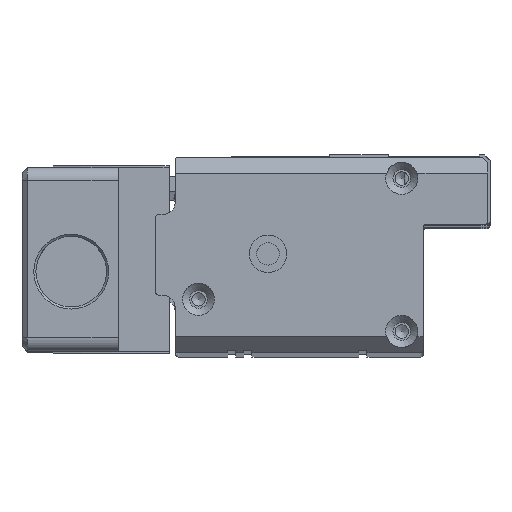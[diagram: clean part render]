
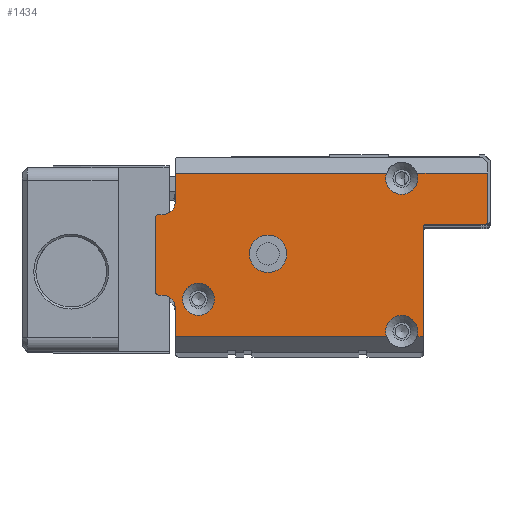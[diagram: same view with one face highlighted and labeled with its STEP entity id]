
A CAD part, top view. The second image highlights one B-rep face of the part: STEP entity #1434.
In plain terms, the highlighted planar face has unit normal (0, 0, 1).
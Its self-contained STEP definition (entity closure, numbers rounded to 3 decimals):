
#561=FACE_BOUND('',#2789,.T.);
#562=FACE_BOUND('',#2790,.T.);
#563=FACE_BOUND('',#2791,.T.);
#886=CIRCLE('',#10532,3.);
#887=CIRCLE('',#10533,3.);
#888=CIRCLE('',#10534,0.5);
#889=CIRCLE('',#10535,0.5);
#890=CIRCLE('',#10536,3.);
#891=CIRCLE('',#10537,2.5);
#892=CIRCLE('',#10538,0.5);
#893=CIRCLE('',#10539,0.5);
#894=CIRCLE('',#10540,2.5);
#895=CIRCLE('',#10541,3.5);
#1434=ADVANCED_FACE('',(#561,#562,#563),#1770,.T.);
#1770=PLANE('',#10542);
#2789=EDGE_LOOP('',(#7181));
#2790=EDGE_LOOP('',(#7182,#7183,#7184,#7185,#7186,#7187,#7188,#7189,#7190,
#7191,#7192,#7193,#7194,#7195,#7196,#7197,#7198,#7199,#7200,#7201));
#2791=EDGE_LOOP('',(#7202));
#3693=LINE('',#16460,#4619);
#3694=LINE('',#16462,#4620);
#3695=LINE('',#16466,#4621);
#3696=LINE('',#16470,#4622);
#3697=LINE('',#16472,#4623);
#3698=LINE('',#16476,#4624);
#3699=LINE('',#16478,#4625);
#3700=LINE('',#16482,#4626);
#3701=LINE('',#16486,#4627);
#3702=LINE('',#16490,#4628);
#3703=LINE('',#16494,#4629);
#3704=LINE('',#16496,#4630);
#4619=VECTOR('',#13069,1.);
#4620=VECTOR('',#13070,1.);
#4621=VECTOR('',#13073,1.);
#4622=VECTOR('',#13076,1.);
#4623=VECTOR('',#13077,1.);
#4624=VECTOR('',#13080,1.);
#4625=VECTOR('',#13081,1.);
#4626=VECTOR('',#13084,1.);
#4627=VECTOR('',#13087,1.);
#4628=VECTOR('',#13090,1.);
#4629=VECTOR('',#13093,1.);
#4630=VECTOR('',#13094,1.);
#7181=ORIENTED_EDGE('',*,*,#9598,.T.);
#7182=ORIENTED_EDGE('',*,*,#9599,.T.);
#7183=ORIENTED_EDGE('',*,*,#9600,.T.);
#7184=ORIENTED_EDGE('',*,*,#9601,.T.);
#7185=ORIENTED_EDGE('',*,*,#9602,.T.);
#7186=ORIENTED_EDGE('',*,*,#9603,.T.);
#7187=ORIENTED_EDGE('',*,*,#9604,.T.);
#7188=ORIENTED_EDGE('',*,*,#9605,.T.);
#7189=ORIENTED_EDGE('',*,*,#9606,.T.);
#7190=ORIENTED_EDGE('',*,*,#9607,.T.);
#7191=ORIENTED_EDGE('',*,*,#9608,.T.);
#7192=ORIENTED_EDGE('',*,*,#9609,.T.);
#7193=ORIENTED_EDGE('',*,*,#9610,.T.);
#7194=ORIENTED_EDGE('',*,*,#9611,.T.);
#7195=ORIENTED_EDGE('',*,*,#9612,.T.);
#7196=ORIENTED_EDGE('',*,*,#9613,.T.);
#7197=ORIENTED_EDGE('',*,*,#9614,.T.);
#7198=ORIENTED_EDGE('',*,*,#9615,.T.);
#7199=ORIENTED_EDGE('',*,*,#9616,.T.);
#7200=ORIENTED_EDGE('',*,*,#9617,.T.);
#7201=ORIENTED_EDGE('',*,*,#9618,.T.);
#7202=ORIENTED_EDGE('',*,*,#9619,.T.);
#8274=VERTEX_POINT('',#16456);
#8275=VERTEX_POINT('',#16458);
#8276=VERTEX_POINT('',#16459);
#8277=VERTEX_POINT('',#16461);
#8278=VERTEX_POINT('',#16463);
#8279=VERTEX_POINT('',#16465);
#8280=VERTEX_POINT('',#16467);
#8281=VERTEX_POINT('',#16469);
#8282=VERTEX_POINT('',#16471);
#8283=VERTEX_POINT('',#16473);
#8284=VERTEX_POINT('',#16475);
#8285=VERTEX_POINT('',#16477);
#8286=VERTEX_POINT('',#16479);
#8287=VERTEX_POINT('',#16481);
#8288=VERTEX_POINT('',#16483);
#8289=VERTEX_POINT('',#16485);
#8290=VERTEX_POINT('',#16487);
#8291=VERTEX_POINT('',#16489);
#8292=VERTEX_POINT('',#16491);
#8293=VERTEX_POINT('',#16493);
#8294=VERTEX_POINT('',#16495);
#8295=VERTEX_POINT('',#16498);
#9598=EDGE_CURVE('',#8274,#8274,#886,.T.);
#9599=EDGE_CURVE('',#8275,#8276,#887,.T.);
#9600=EDGE_CURVE('',#8276,#8277,#3693,.T.);
#9601=EDGE_CURVE('',#8277,#8278,#3694,.T.);
#9602=EDGE_CURVE('',#8278,#8279,#888,.T.);
#9603=EDGE_CURVE('',#8279,#8280,#3695,.T.);
#9604=EDGE_CURVE('',#8280,#8281,#889,.T.);
#9605=EDGE_CURVE('',#8281,#8282,#3696,.T.);
#9606=EDGE_CURVE('',#8282,#8283,#3697,.T.);
#9607=EDGE_CURVE('',#8283,#8284,#890,.T.);
#9608=EDGE_CURVE('',#8284,#8285,#3698,.T.);
#9609=EDGE_CURVE('',#8285,#8286,#3699,.T.);
#9610=EDGE_CURVE('',#8286,#8287,#891,.T.);
#9611=EDGE_CURVE('',#8287,#8288,#3700,.T.);
#9612=EDGE_CURVE('',#8288,#8289,#892,.T.);
#9613=EDGE_CURVE('',#8289,#8290,#3701,.T.);
#9614=EDGE_CURVE('',#8290,#8291,#893,.T.);
#9615=EDGE_CURVE('',#8291,#8292,#3702,.T.);
#9616=EDGE_CURVE('',#8292,#8293,#894,.T.);
#9617=EDGE_CURVE('',#8293,#8294,#3703,.T.);
#9618=EDGE_CURVE('',#8294,#8275,#3704,.T.);
#9619=EDGE_CURVE('',#8295,#8295,#895,.T.);
#10532=AXIS2_PLACEMENT_3D('',#16455,#13065,#13066);
#10533=AXIS2_PLACEMENT_3D('',#16457,#13067,#13068);
#10534=AXIS2_PLACEMENT_3D('',#16464,#13071,#13072);
#10535=AXIS2_PLACEMENT_3D('',#16468,#13074,#13075);
#10536=AXIS2_PLACEMENT_3D('',#16474,#13078,#13079);
#10537=AXIS2_PLACEMENT_3D('',#16480,#13082,#13083);
#10538=AXIS2_PLACEMENT_3D('',#16484,#13085,#13086);
#10539=AXIS2_PLACEMENT_3D('',#16488,#13088,#13089);
#10540=AXIS2_PLACEMENT_3D('',#16492,#13091,#13092);
#10541=AXIS2_PLACEMENT_3D('',#16497,#13095,#13096);
#10542=AXIS2_PLACEMENT_3D('',#16499,#13097,#13098);
#13065=DIRECTION('',(0.,0.,-1.));
#13066=DIRECTION('',(-1.,0.,0.));
#13067=DIRECTION('',(0.,0.,-1.));
#13068=DIRECTION('',(-1.,0.,0.));
#13069=DIRECTION('',(1.,0.,0.));
#13070=DIRECTION('',(0.,1.,0.));
#13071=DIRECTION('',(0.,0.,-1.));
#13072=DIRECTION('',(1.,0.,0.));
#13073=DIRECTION('',(1.,0.,0.));
#13074=DIRECTION('',(0.,0.,1.));
#13075=DIRECTION('',(1.,0.,0.));
#13076=DIRECTION('',(0.,1.,0.));
#13077=DIRECTION('',(-1.,0.,0.));
#13078=DIRECTION('',(0.,0.,-1.));
#13079=DIRECTION('',(-1.,0.,0.));
#13080=DIRECTION('',(-1.,0.,0.));
#13081=DIRECTION('',(0.,-1.,0.));
#13082=DIRECTION('',(0.,0.,-1.));
#13083=DIRECTION('',(1.,0.,0.));
#13084=DIRECTION('',(-1.,0.,0.));
#13085=DIRECTION('',(0.,0.,1.));
#13086=DIRECTION('',(1.,0.,0.));
#13087=DIRECTION('',(0.,-1.,0.));
#13088=DIRECTION('',(0.,0.,1.));
#13089=DIRECTION('',(1.,0.,0.));
#13090=DIRECTION('',(1.,0.,0.));
#13091=DIRECTION('',(0.,0.,-1.));
#13092=DIRECTION('',(1.,0.,0.));
#13093=DIRECTION('',(0.,-1.,0.));
#13094=DIRECTION('',(1.,0.,0.));
#13095=DIRECTION('',(0.,0.,-1.));
#13096=DIRECTION('',(-1.,0.,0.));
#13097=DIRECTION('',(0.,0.,1.));
#13098=DIRECTION('',(-1.,0.,0.));
#16455=CARTESIAN_POINT('',(8.,-26.6,8.));
#16456=CARTESIAN_POINT('',(5.,-26.6,8.));
#16457=CARTESIAN_POINT('',(46.,-32.6,8.));
#16458=CARTESIAN_POINT('',(43.172,-33.6,8.));
#16459=CARTESIAN_POINT('',(48.828,-33.6,8.));
#16460=CARTESIAN_POINT('',(50.,-33.6,8.));
#16461=CARTESIAN_POINT('',(50.,-33.6,8.));
#16462=CARTESIAN_POINT('',(50.,-36.6,8.));
#16463=CARTESIAN_POINT('',(50.,-13.1,8.));
#16464=CARTESIAN_POINT('',(50.5,-13.1,8.));
#16465=CARTESIAN_POINT('',(50.5,-12.6,8.));
#16466=CARTESIAN_POINT('',(50.,-12.6,8.));
#16467=CARTESIAN_POINT('',(61.6,-12.6,8.));
#16468=CARTESIAN_POINT('',(61.6,-12.1,8.));
#16469=CARTESIAN_POINT('',(62.1,-12.1,8.));
#16470=CARTESIAN_POINT('',(62.1,-12.6,8.));
#16471=CARTESIAN_POINT('',(62.1,-3.,8.));
#16472=CARTESIAN_POINT('',(3.7,-3.,8.));
#16473=CARTESIAN_POINT('',(48.828,-3.,8.));
#16474=CARTESIAN_POINT('',(46.,-4.,8.));
#16475=CARTESIAN_POINT('',(43.172,-3.,8.));
#16476=CARTESIAN_POINT('',(3.7,-3.,8.));
#16477=CARTESIAN_POINT('',(3.7,-3.,8.));
#16478=CARTESIAN_POINT('',(3.7,0.,8.));
#16479=CARTESIAN_POINT('',(3.7,-8.3,8.));
#16480=CARTESIAN_POINT('',(1.2,-8.3,8.));
#16481=CARTESIAN_POINT('',(1.2,-10.8,8.));
#16482=CARTESIAN_POINT('',(3.7,-10.8,8.));
#16483=CARTESIAN_POINT('',(0.5,-10.8,8.));
#16484=CARTESIAN_POINT('',(0.5,-11.3,8.));
#16485=CARTESIAN_POINT('',(0.,-11.3,8.));
#16486=CARTESIAN_POINT('',(0.,-10.8,8.));
#16487=CARTESIAN_POINT('',(0.,-25.3,8.));
#16488=CARTESIAN_POINT('',(0.5,-25.3,8.));
#16489=CARTESIAN_POINT('',(0.5,-25.8,8.));
#16490=CARTESIAN_POINT('',(0.,-25.8,8.));
#16491=CARTESIAN_POINT('',(1.2,-25.8,8.));
#16492=CARTESIAN_POINT('',(1.2,-28.3,8.));
#16493=CARTESIAN_POINT('',(3.7,-28.3,8.));
#16494=CARTESIAN_POINT('',(3.7,-25.8,8.));
#16495=CARTESIAN_POINT('',(3.7,-33.6,8.));
#16496=CARTESIAN_POINT('',(50.,-33.6,8.));
#16497=CARTESIAN_POINT('',(21.,-18.1,8.));
#16498=CARTESIAN_POINT('',(17.5,-18.1,8.));
#16499=CARTESIAN_POINT('',(0.,0.,8.));
